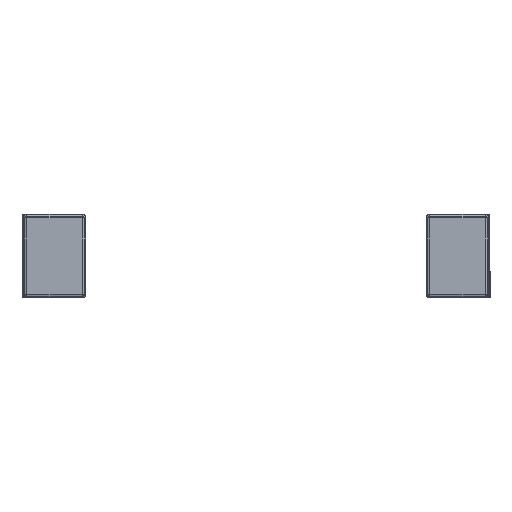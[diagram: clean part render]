
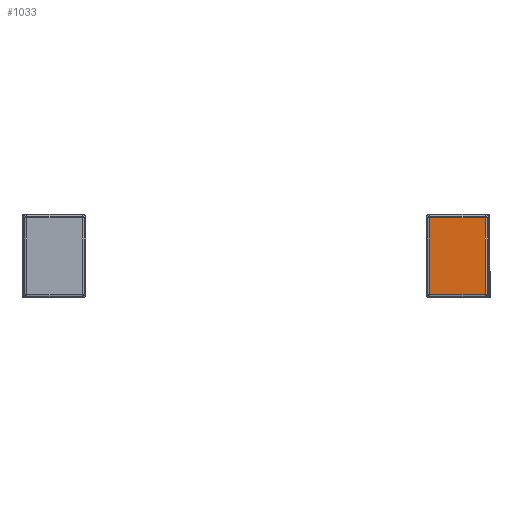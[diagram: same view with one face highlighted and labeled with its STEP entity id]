
A CAD part, front view. The second image highlights one B-rep face of the part: STEP entity #1033.
In plain terms, the highlighted planar face has unit normal (0, -1, 0) as drawn and (0, 1, 0) by its records, which use the part's own axes.
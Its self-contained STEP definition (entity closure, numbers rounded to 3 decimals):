
#1033=ADVANCED_FACE('',(#1875),#1877,.T.);
#1875=FACE_BOUND('',#1876,.T.);
#1876=EDGE_LOOP('',(#7323,#7324,#7325,#7326));
#1877=PLANE('',#1878);
#1878=AXIS2_PLACEMENT_3D('',#1879,#1880,#1881);
#1879=CARTESIAN_POINT('',(37.5,51.75,-2.));
#1880=DIRECTION('',(0.,1.,0.));
#1881=DIRECTION('',(-1.,0.,0.));
#7323=ORIENTED_EDGE('',*,*,#10387,.F.);
#7324=ORIENTED_EDGE('',*,*,#10388,.F.);
#7325=ORIENTED_EDGE('',*,*,#10389,.T.);
#7326=ORIENTED_EDGE('',*,*,#10390,.F.);
#10387=EDGE_CURVE('',#12012,#12013,#12014,.T.);
#10388=EDGE_CURVE('',#12015,#12012,#12016,.T.);
#10389=EDGE_CURVE('',#12015,#12017,#12018,.T.);
#10390=EDGE_CURVE('',#12013,#12017,#12019,.T.);
#12012=VERTEX_POINT('',#14782);
#12013=VERTEX_POINT('',#14783);
#12014=LINE('',#14784,#14785);
#12015=VERTEX_POINT('',#14787);
#12016=LINE('',#14788,#14789);
#12017=VERTEX_POINT('',#14791);
#12018=LINE('',#14792,#14793);
#12019=LINE('',#14795,#14796);
#14782=CARTESIAN_POINT('',(-33.5,51.75,-4.));
#14783=CARTESIAN_POINT('',(-33.5,51.75,-96.));
#14784=CARTESIAN_POINT('',(-33.5,51.75,-4.));
#14785=VECTOR('',#14786,1.);
#14786=DIRECTION('',(0.,0.,-1.));
#14787=CARTESIAN_POINT('',(33.5,51.75,-4.));
#14788=CARTESIAN_POINT('',(33.5,51.75,-4.));
#14789=VECTOR('',#14790,1.);
#14790=DIRECTION('',(-1.,0.,0.));
#14791=CARTESIAN_POINT('',(33.5,51.75,-96.));
#14792=CARTESIAN_POINT('',(33.5,51.75,-4.));
#14793=VECTOR('',#14794,1.);
#14794=DIRECTION('',(0.,0.,-1.));
#14795=CARTESIAN_POINT('',(-33.5,51.75,-96.));
#14796=VECTOR('',#14797,1.);
#14797=DIRECTION('',(1.,0.,0.));
